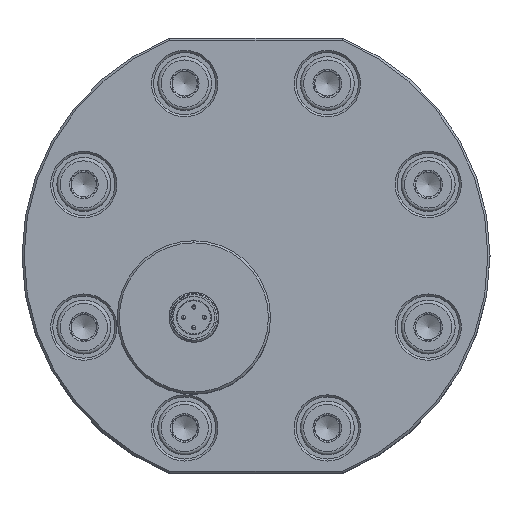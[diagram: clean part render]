
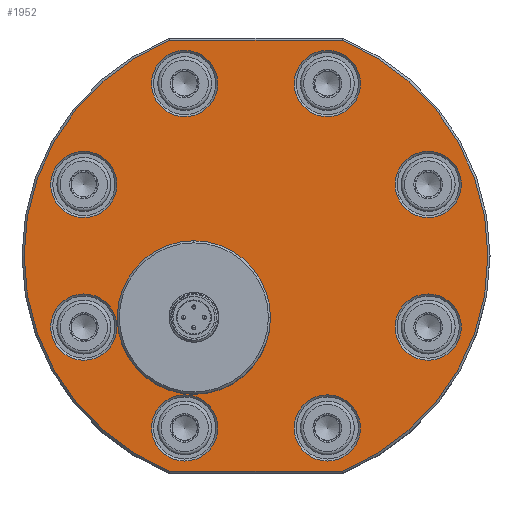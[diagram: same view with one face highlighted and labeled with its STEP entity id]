
A CAD part, top view. The second image highlights one B-rep face of the part: STEP entity #1952.
In plain terms, the highlighted planar face has unit normal (0, 0, 1).
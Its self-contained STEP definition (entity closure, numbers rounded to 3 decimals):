
#591=PLANE('',#12654);
#976=FACE_BOUND('',#3693,.T.);
#977=FACE_BOUND('',#3694,.T.);
#978=FACE_BOUND('',#3695,.T.);
#979=FACE_BOUND('',#3696,.T.);
#980=FACE_BOUND('',#3697,.T.);
#981=FACE_BOUND('',#3698,.T.);
#982=FACE_BOUND('',#3699,.T.);
#983=FACE_BOUND('',#3700,.T.);
#984=FACE_BOUND('',#3701,.T.);
#985=FACE_BOUND('',#3702,.T.);
#1952=ADVANCED_FACE('',(#976,#977,#978,#979,#980,#981,#982,#983,#984,#985),
#591,.T.);
#3693=EDGE_LOOP('',(#6551,#6552));
#3694=EDGE_LOOP('',(#6553));
#3695=EDGE_LOOP('',(#6554));
#3696=EDGE_LOOP('',(#6555));
#3697=EDGE_LOOP('',(#6556));
#3698=EDGE_LOOP('',(#6557));
#3699=EDGE_LOOP('',(#6558));
#3700=EDGE_LOOP('',(#6559));
#3701=EDGE_LOOP('',(#6560));
#3702=EDGE_LOOP('',(#6561,#6562,#6563,#6564));
#4633=LINE('',#23567,#5084);
#4634=LINE('',#23571,#5085);
#5084=VECTOR('',#15134,1.);
#5085=VECTOR('',#15137,1.);
#6551=ORIENTED_EDGE('',*,*,#10196,.T.);
#6552=ORIENTED_EDGE('',*,*,#10197,.T.);
#6553=ORIENTED_EDGE('',*,*,#10198,.T.);
#6554=ORIENTED_EDGE('',*,*,#10199,.T.);
#6555=ORIENTED_EDGE('',*,*,#10200,.T.);
#6556=ORIENTED_EDGE('',*,*,#10201,.T.);
#6557=ORIENTED_EDGE('',*,*,#10202,.T.);
#6558=ORIENTED_EDGE('',*,*,#10203,.T.);
#6559=ORIENTED_EDGE('',*,*,#10204,.T.);
#6560=ORIENTED_EDGE('',*,*,#10205,.T.);
#6561=ORIENTED_EDGE('',*,*,#10206,.T.);
#6562=ORIENTED_EDGE('',*,*,#10207,.T.);
#6563=ORIENTED_EDGE('',*,*,#10208,.T.);
#6564=ORIENTED_EDGE('',*,*,#10209,.T.);
#8939=VERTEX_POINT('',#23545);
#8940=VERTEX_POINT('',#23546);
#8941=VERTEX_POINT('',#23549);
#8942=VERTEX_POINT('',#23551);
#8943=VERTEX_POINT('',#23553);
#8944=VERTEX_POINT('',#23555);
#8945=VERTEX_POINT('',#23557);
#8946=VERTEX_POINT('',#23559);
#8947=VERTEX_POINT('',#23561);
#8948=VERTEX_POINT('',#23563);
#8949=VERTEX_POINT('',#23565);
#8950=VERTEX_POINT('',#23566);
#8951=VERTEX_POINT('',#23568);
#8952=VERTEX_POINT('',#23570);
#10196=EDGE_CURVE('',#8939,#8940,#11536,.T.);
#10197=EDGE_CURVE('',#8940,#8939,#11537,.T.);
#10198=EDGE_CURVE('',#8941,#8941,#11538,.T.);
#10199=EDGE_CURVE('',#8942,#8942,#11539,.T.);
#10200=EDGE_CURVE('',#8943,#8943,#11540,.T.);
#10201=EDGE_CURVE('',#8944,#8944,#11541,.T.);
#10202=EDGE_CURVE('',#8945,#8945,#11542,.T.);
#10203=EDGE_CURVE('',#8946,#8946,#11543,.T.);
#10204=EDGE_CURVE('',#8947,#8947,#11544,.T.);
#10205=EDGE_CURVE('',#8948,#8948,#11545,.T.);
#10206=EDGE_CURVE('',#8949,#8950,#11546,.T.);
#10207=EDGE_CURVE('',#8950,#8951,#4633,.T.);
#10208=EDGE_CURVE('',#8951,#8952,#11547,.T.);
#10209=EDGE_CURVE('',#8952,#8949,#4634,.T.);
#11536=CIRCLE('',#12642,7.5);
#11537=CIRCLE('',#12643,7.5);
#11538=CIRCLE('',#12644,8.);
#11539=CIRCLE('',#12645,8.);
#11540=CIRCLE('',#12646,8.);
#11541=CIRCLE('',#12647,8.);
#11542=CIRCLE('',#12648,8.);
#11543=CIRCLE('',#12649,8.);
#11544=CIRCLE('',#12650,8.);
#11545=CIRCLE('',#12651,8.);
#11546=CIRCLE('',#12652,56.);
#11547=CIRCLE('',#12653,56.);
#12642=AXIS2_PLACEMENT_3D('',#23544,#15112,#15113);
#12643=AXIS2_PLACEMENT_3D('',#23547,#15114,#15115);
#12644=AXIS2_PLACEMENT_3D('',#23548,#15116,#15117);
#12645=AXIS2_PLACEMENT_3D('',#23550,#15118,#15119);
#12646=AXIS2_PLACEMENT_3D('',#23552,#15120,#15121);
#12647=AXIS2_PLACEMENT_3D('',#23554,#15122,#15123);
#12648=AXIS2_PLACEMENT_3D('',#23556,#15124,#15125);
#12649=AXIS2_PLACEMENT_3D('',#23558,#15126,#15127);
#12650=AXIS2_PLACEMENT_3D('',#23560,#15128,#15129);
#12651=AXIS2_PLACEMENT_3D('',#23562,#15130,#15131);
#12652=AXIS2_PLACEMENT_3D('',#23564,#15132,#15133);
#12653=AXIS2_PLACEMENT_3D('',#23569,#15135,#15136);
#12654=AXIS2_PLACEMENT_3D('',#23572,#15138,#15139);
#15112=DIRECTION('',(0.,0.,-1.));
#15113=DIRECTION('',(1.,0.,0.));
#15114=DIRECTION('',(0.,0.,-1.));
#15115=DIRECTION('',(1.,0.,0.));
#15116=DIRECTION('',(0.,0.,-1.));
#15117=DIRECTION('',(1.,0.,0.));
#15118=DIRECTION('',(0.,0.,-1.));
#15119=DIRECTION('',(1.,0.,0.));
#15120=DIRECTION('',(0.,0.,-1.));
#15121=DIRECTION('',(1.,0.,0.));
#15122=DIRECTION('',(0.,0.,-1.));
#15123=DIRECTION('',(1.,0.,0.));
#15124=DIRECTION('',(0.,0.,-1.));
#15125=DIRECTION('',(1.,0.,0.));
#15126=DIRECTION('',(0.,0.,-1.));
#15127=DIRECTION('',(1.,0.,0.));
#15128=DIRECTION('',(0.,0.,-1.));
#15129=DIRECTION('',(1.,0.,0.));
#15130=DIRECTION('',(0.,0.,-1.));
#15131=DIRECTION('',(1.,0.,0.));
#15132=DIRECTION('',(0.,0.,1.));
#15133=DIRECTION('',(1.,0.,0.));
#15134=DIRECTION('',(-1.,0.,0.));
#15135=DIRECTION('',(0.,0.,1.));
#15136=DIRECTION('',(1.,0.,0.));
#15137=DIRECTION('',(1.,0.,0.));
#15138=DIRECTION('',(0.,0.,1.));
#15139=DIRECTION('',(-1.,0.,0.));
#23544=CARTESIAN_POINT('',(-15.,-15.,62.));
#23545=CARTESIAN_POINT('',(-7.5,-15.,62.));
#23546=CARTESIAN_POINT('',(-10.148,-20.719,62.));
#23547=CARTESIAN_POINT('',(-15.,-15.,62.));
#23548=CARTESIAN_POINT('',(17.221,41.575,62.));
#23549=CARTESIAN_POINT('',(25.221,41.575,62.));
#23550=CARTESIAN_POINT('',(41.575,17.221,62.));
#23551=CARTESIAN_POINT('',(49.575,17.221,62.));
#23552=CARTESIAN_POINT('',(41.575,-17.221,62.));
#23553=CARTESIAN_POINT('',(49.575,-17.221,62.));
#23554=CARTESIAN_POINT('',(17.221,-41.575,62.));
#23555=CARTESIAN_POINT('',(25.221,-41.575,62.));
#23556=CARTESIAN_POINT('',(-17.221,-41.575,62.));
#23557=CARTESIAN_POINT('',(-9.221,-41.575,62.));
#23558=CARTESIAN_POINT('',(-41.575,-17.221,62.));
#23559=CARTESIAN_POINT('',(-33.575,-17.221,62.));
#23560=CARTESIAN_POINT('',(-41.575,17.221,62.));
#23561=CARTESIAN_POINT('',(-33.575,17.221,62.));
#23562=CARTESIAN_POINT('',(-17.221,41.575,62.));
#23563=CARTESIAN_POINT('',(-9.221,41.575,62.));
#23564=CARTESIAN_POINT('',(0.,0.,62.));
#23565=CARTESIAN_POINT('',(20.785,-52.,62.));
#23566=CARTESIAN_POINT('',(20.785,52.,62.));
#23567=CARTESIAN_POINT('',(0.,52.,62.));
#23568=CARTESIAN_POINT('',(-20.785,52.,62.));
#23569=CARTESIAN_POINT('',(0.,0.,62.));
#23570=CARTESIAN_POINT('',(-20.785,-52.,62.));
#23571=CARTESIAN_POINT('',(0.,-52.,62.));
#23572=CARTESIAN_POINT('',(0.,0.,62.));
